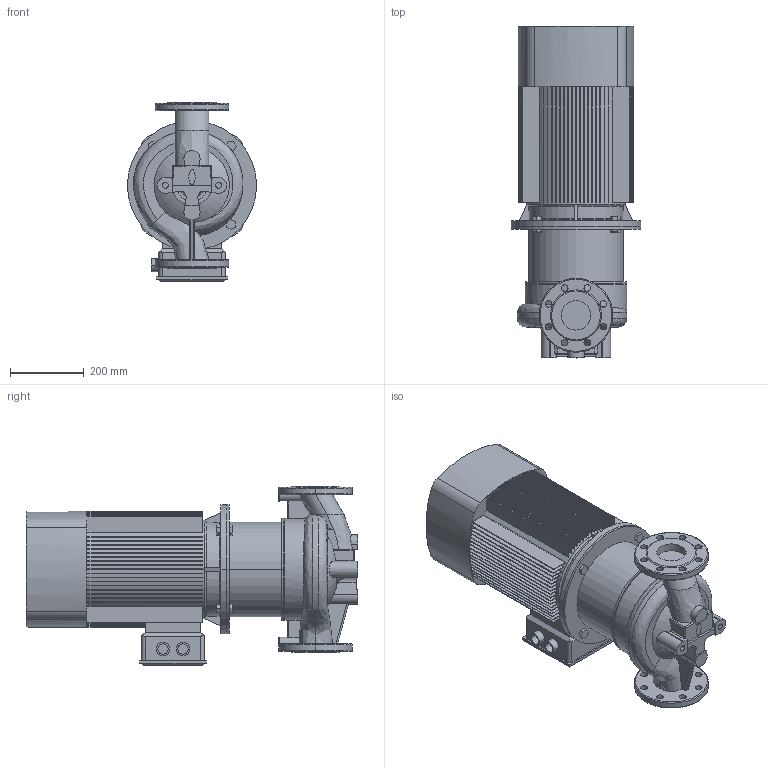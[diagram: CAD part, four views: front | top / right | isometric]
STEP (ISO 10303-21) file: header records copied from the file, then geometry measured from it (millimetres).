
FILE_DESCRIPTION (( 'STEP AP203' ), '1' );
FILE_NAME ('TD80-47G_2.STEP', '2022-05-01T13:14:24', ( '' ), ( '' ), 'SwSTEP 2.0', 'SolidWorks 2019', '' );
FILE_SCHEMA (( 'CONFIG_CONTROL_DESIGN' ));
Length unit declared in the file: millimetre
Products named in the file (4): Fon_80_TD80-47G_2; Pr_ch 80_TD80-47G_2; TD80-47G_2; ED_B5_YE2-160L-2 (18.5)
Assembly tree (3 placements, depth 2):
  TD80-47G_2
    Pr_ch 80_TD80-47G_2
    Fon_80_TD80-47G_2
    ED_B5_YE2-160L-2 (18.5)
Bounding box: 350 x 899 x 486 mm (x, y, z)
Volume: 52648197.9 mm3; surface area: 2936720 mm2
Topology: 13 solids, 15 shells, 740 faces, 2003 edges, 1324 vertices
Faces by surface type: plane 504, cylinder 160, torus 29, bspline 28, cone 17, sphere 2
Entity records: 30928 total; most frequent: CARTESIAN_POINT 11613, ORIENTED_EDGE 4002, DIRECTION 3924, EDGE_CURVE 2001, AXIS2_PLACEMENT_3D 1368, VERTEX_POINT 1324, LINE 1188, VECTOR 1188
